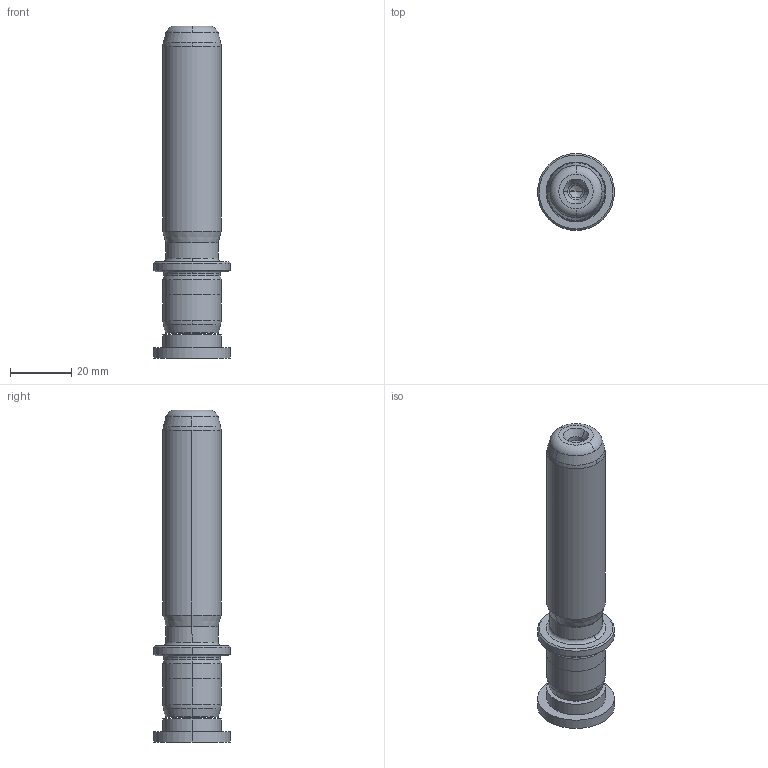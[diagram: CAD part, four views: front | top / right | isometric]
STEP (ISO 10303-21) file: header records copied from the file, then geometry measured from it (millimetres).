
FILE_DESCRIPTION((''),'2;1');
FILE_NAME('P22_019_080.stp','2009-02-02T10:41:16',(''),(''),'Mechanical Desktop 2009','Mechanical Desktop 2009',', , ');
FILE_SCHEMA(('CONFIG_CONTROL_DESIGN'));
Length unit declared in the file: millimetre
Products named in the file (2): Product; blmdl1
Assembly tree (1 placements, depth 2):
  Product
    blmdl1
Bounding box: 25 x 25 x 108 mm (x, y, z)
Volume: 30384.7 mm3; surface area: 9358.5 mm2
Topology: 3 solids, 3 shells, 99 faces, 237 edges, 149 vertices
Faces by surface type: cylinder 32, cone 28, plane 19, bspline 14, torus 6
Entity records: 3507 total; most frequent: CARTESIAN_POINT 1027, DIRECTION 562, ORIENTED_EDGE 466, AXIS2_PLACEMENT_3D 242, EDGE_CURVE 233, CIRCLE 155, VERTEX_POINT 149, EDGE_LOOP 110
